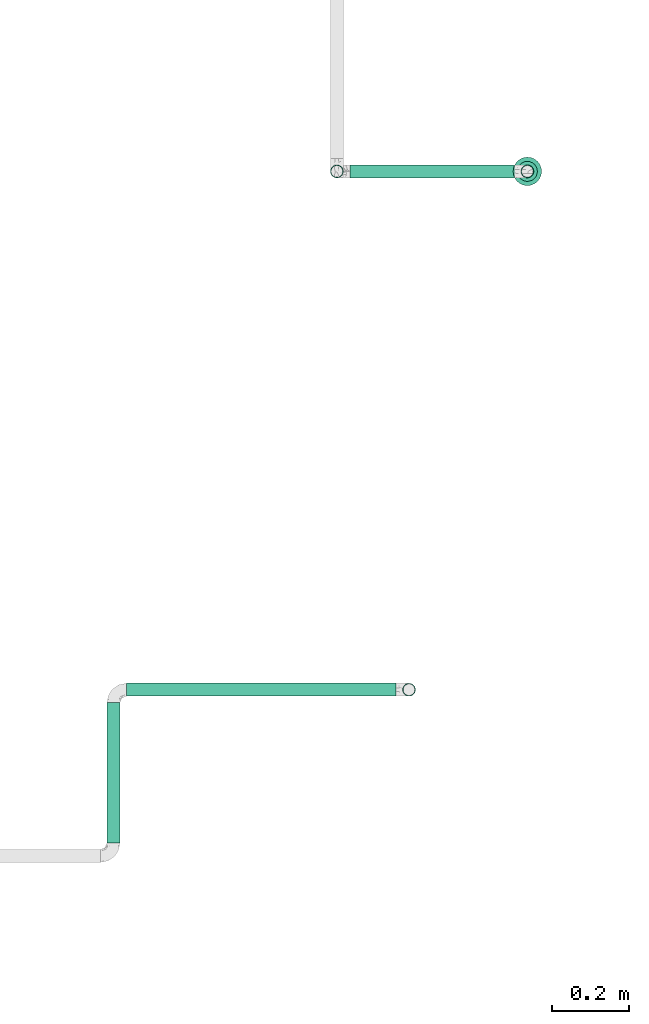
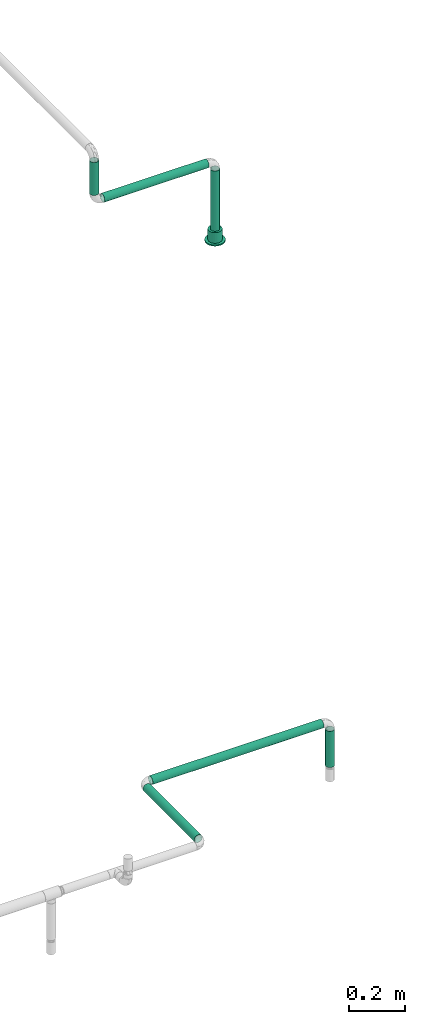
# One storey, part 29 of 95: 6 flow segments, 1 flow terminal.
"""IFC2X3 building model written with IfcOpenShell, lengths in millimetres."""

from ifc_helpers import new_model, entity, si_unit, converted_unit, derived_unit, direction, frame, origin_with_axes, origin_2d_with_axis, place, context, subcontext, project, spatial, hollow_circle, extrude, open_shell, surface_model, source, transform, mapped, type_object, element, save


model = new_model("IFC2X3")

# Units and contexts
model_context = context("Model", 3, precision=0.01, world=frame((0.0, 4.29681676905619e-09, 0.0)), true_north=direction((4.01073788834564e-13, 1.0)))
plan_context = context("Plan", 3, precision=0.01, world=frame((0.0, 4.29681676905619e-09, 0.0)), true_north=direction((4.01073788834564e-13, 1.0)))
body_context = subcontext(model_context, "Body", "Model", "MODEL_VIEW")
ifc_project = project(units=[converted_unit("PLANEANGLEUNIT", "DEGREE", entity("IfcPositiveLengthMeasure", 0.0174532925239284), si_unit("PLANEANGLEUNIT", "RADIAN"), dimensions=[0, 0, 0, 0, 0, 0, 0]), si_unit("AREAUNIT", "SQUARE_METRE"), si_unit("LENGTHUNIT", "METRE", prefix="MILLI"), si_unit("MASSUNIT", "GRAM", prefix="KILO"), si_unit("POWERUNIT", "WATT"), si_unit("PRESSUREUNIT", "PASCAL"), si_unit("FORCEUNIT", "NEWTON", prefix="KILO"), si_unit("ELECTRICVOLTAGEUNIT", "VOLT"), si_unit("ELECTRICCURRENTUNIT", "AMPERE"), si_unit("THERMODYNAMICTEMPERATUREUNIT", "DEGREE_CELSIUS"), si_unit("TIMEUNIT", "SECOND"), si_unit("VOLUMEUNIT", "CUBIC_METRE"), derived_unit("LINEARVELOCITYUNIT", [(si_unit("LENGTHUNIT", "METRE"), 1), (si_unit("TIMEUNIT", "SECOND"), -1)]), derived_unit("VOLUMETRICFLOWRATEUNIT", [(si_unit("VOLUMEUNIT", "CUBIC_METRE"), 1), (si_unit("TIMEUNIT", "SECOND"), -1)]), derived_unit("THERMALTRANSMITTANCEUNIT", [(si_unit("POWERUNIT", "WATT"), 1), (si_unit("THERMODYNAMICTEMPERATUREUNIT", "KELVIN"), -1), (si_unit("AREAUNIT", "SQUARE_METRE"), -1)]), derived_unit("SOUNDPRESSUREUNIT", [(si_unit("PRESSUREUNIT", "PASCAL"), 1)])], contexts=[model_context, plan_context])

# Site, building, storey
site_placement = place(None, frame((0.0, -4.29681676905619e-09, 0.0), z_axis=(0.0, 0.0, 1.0), x_axis=(1.0, 0.0, 0.0)))
site = spatial("IfcSite", under=ifc_project, at=site_placement, CompositionType="ELEMENT")
building_placement = place(site_placement, frame((0.0, 4.29681676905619e-09, 0.0), z_axis=(0.0, 0.0, 1.0), x_axis=(1.0, 0.0, 0.0)))
building = spatial("IfcBuilding", under=site, at=building_placement, Name="mc-building", CompositionType="ELEMENT")
storey_placement = place(building_placement, frame((0.0, 0.0, 210900.0), z_axis=(0.0, 0.0, 1.0), x_axis=(1.0, 0.0, 0.0)))
storey = spatial("IfcBuildingStorey", under=building, at=storey_placement, Name="Nivå F", CompositionType="ELEMENT", Elevation=210900.0)

# Flow segments
pipe_segment_type = type_object("IfcPipeSegmentType", Name="Stålrør normaltykke", PredefinedType="RIGIDSEGMENT")
shared_shape_1 = source(origin_with_axes(), body_context, "Body", "SweptSolid", [
    extrude(hollow_circle(Radius=16.9, WallThickness=2.0, at=origin_2d_with_axis()), frame((0.0, 0.0, 0.0), z_axis=(1.0, 0.0, 0.0), x_axis=(0.0, 1.0, 0.0)), (0.0, 0.0, 1.0), 427.2),
])
flow_segment_1_placement = place(storey_placement, frame((522836.56487, 458598.02191, 4100.0), z_axis=(0.0, 0.0, 1.0), x_axis=(1.0, 0.0, 0.0)))
element("IfcFlowSegment", 1, at=flow_segment_1_placement, inside=storey, type_object=pipe_segment_type, Name="Stålrør normaltykke", context=body_context, shape_type="MappedRepresentation", body=[
    mapped(shared_shape_1, transform((0.0, 0.0, 0.0), scale=1.0)),
])
shared_shape_2 = source(origin_with_axes(), body_context, "Body", "SweptSolid", [
    extrude(hollow_circle(Radius=16.9, WallThickness=2.0, at=origin_2d_with_axis()), frame((0.0, 0.0, 0.0), z_axis=(1.0, 0.0, 0.0), x_axis=(0.0, 1.0, 0.0)), (0.0, 0.0, 1.0), 296.9),
])
flow_segment_2_placement = place(storey_placement, frame((523297.57166, 458598.02191, 4066.20000000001), z_axis=(0.0, -1.0, 0.0), x_axis=(0.0, 0.0, -1.0)))
element("IfcFlowSegment", 2, at=flow_segment_2_placement, inside=storey, type_object=pipe_segment_type, Name="Stålrør normaltykke", context=body_context, shape_type="MappedRepresentation", body=[
    mapped(shared_shape_2, transform((0.0, 0.0, 0.0), scale=1.0)),
])
shared_shape_3 = source(origin_with_axes(), body_context, "Body", "SweptSolid", [
    extrude(hollow_circle(Radius=16.9, WallThickness=2.0, at=origin_2d_with_axis()), frame((0.0, 0.0, 0.0), z_axis=(1.0, 0.0, 0.0), x_axis=(0.0, 1.0, 0.0)), (0.0, 0.0, 1.0), 142.4),
])
flow_segment_3_placement = place(storey_placement, frame((522802.76487, 458598.02191, 4276.20000000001), z_axis=(1.0, 0.0, 0.0), x_axis=(0.0, 0.0, -1.0)))
element("IfcFlowSegment", 3, at=flow_segment_3_placement, inside=storey, type_object=pipe_segment_type, Name="Stålrør normaltykke", context=body_context, shape_type="MappedRepresentation", body=[
    mapped(shared_shape_3, transform((0.0, 0.0, 0.0), scale=1.0)),
])
shared_shape_4 = source(origin_with_axes(), body_context, "Body", "SweptSolid", [
    extrude(hollow_circle(Radius=16.9, WallThickness=2.0, at=origin_2d_with_axis()), frame((0.0, 0.0, 0.0), z_axis=(1.0, 0.0, 0.0), x_axis=(0.0, 1.0, 0.0)), (0.0, 0.0, 1.0), 364.2),
])
flow_segment_4_placement = place(storey_placement, frame((522222.4, 456853.85824, 2600.0), z_axis=(0.0, 0.0, 1.0), x_axis=(0.0, 1.0, 0.0)))
element("IfcFlowSegment", 4, at=flow_segment_4_placement, inside=storey, type_object=pipe_segment_type, Name="Stålrør normaltykke", context=body_context, shape_type="MappedRepresentation", body=[
    mapped(shared_shape_4, transform((0.0, 0.0, 0.0), scale=1.0)),
])
shared_shape_5 = source(origin_with_axes(), body_context, "Body", "SweptSolid", [
    extrude(hollow_circle(Radius=16.9, WallThickness=2.0, at=origin_2d_with_axis()), frame((0.0, 0.0, 0.0), z_axis=(1.0, 0.0, 0.0), x_axis=(0.0, 1.0, 0.0)), (0.0, 0.0, 1.0), 156.8),
])
flow_segment_5_placement = place(storey_placement, frame((522990.24238, 457251.63483, 2566.20000000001), z_axis=(0.0, -1.0, 0.0), x_axis=(0.0, 0.0, -1.0)))
element("IfcFlowSegment", 5, at=flow_segment_5_placement, inside=storey, type_object=pipe_segment_type, Name="Stålrør normaltykke", context=body_context, shape_type="MappedRepresentation", body=[
    mapped(shared_shape_5, transform((0.0, 0.0, 0.0), scale=1.0)),
])
shared_shape_6 = source(origin_with_axes(), body_context, "Body", "SweptSolid", [
    extrude(hollow_circle(Radius=16.9, WallThickness=2.0, at=origin_2d_with_axis()), frame((0.0, 0.0, 0.0), z_axis=(1.0, 0.0, 0.0), x_axis=(0.0, 1.0, 0.0)), (0.0, 0.0, 1.0), 700.2),
])
flow_segment_6_placement = place(storey_placement, frame((522956.44238, 457251.63483, 2600.0), z_axis=(0.0, 0.0, 1.0), x_axis=(-1.0, 0.0, 0.0)))
element("IfcFlowSegment", 6, at=flow_segment_6_placement, inside=storey, type_object=pipe_segment_type, Name="Stålrør normaltykke", context=body_context, shape_type="MappedRepresentation", body=[
    mapped(shared_shape_6, transform((0.0, 0.0, 0.0), scale=1.0)),
])

# Flow terminal
fire_suppression_terminal_type = type_object("IfcFireSuppressionTerminalType", Name="68DGR-STD-SKJULT I HIMLING", PredefinedType="NOTDEFINED")
shared_shape_7 = source(origin_with_axes(), body_context, "Body", "SurfaceModel", [
    surface_model("IfcShellBasedSurfaceModel", [(-26.0, 0.0, -46.0), (-25.11407, -6.72929, -46.0), (-25.11407, -6.72929, 0.0), (6.72929, -25.11407, 0.0), (6.72929, -25.11407, -46.0), (13.0, -22.51666, -46.0), (22.51666, -13.0, -46.0), (22.51666, -13.0, 0.0), (18.38478, -18.38478, 0.0), (25.11407, -6.72929, 0.0), (25.11407, -6.72929, -46.0), (26.0, 0.0, -46.0), (26.0, 0.0, 0.0), (25.11407, 6.72929, -46.0), (22.51666, 13.0, 0.0), (25.11407, 6.72929, 0.0), (13.0, 22.51666, -46.0), (6.72929, 25.11407, -46.0), (6.72929, 25.11407, 0.0), (18.38478, 18.38478, 0.0), (22.51666, 13.0, -46.0), (-25.11407, 6.72929, 0.0), (-25.11407, 6.72929, -46.0), (-26.16295, -26.16295, 5.0), (35.73926, -9.57631, 5.0), (37.0, 0.0, 5.0), (13.0, 22.51666, 0.0), (-26.0, 0.0, 0.0), (-13.0, 22.51666, 0.0), (-6.72929, 25.11407, 0.0), (0.0, 26.0, 0.0), (-22.51666, 13.0, 0.0), (-18.38478, 18.38478, 0.0), (13.0, -22.51666, 0.0), (0.0, -26.0, 0.0), (-22.51666, -13.0, 0.0), (-18.38478, -18.38478, 0.0), (-13.0, -22.51666, 0.0), (-6.72929, -25.11407, 0.0), (0.0, -26.0, -46.0), (18.38478, -18.38478, -46.0), (-18.38478, -18.38478, -46.0), (-13.0, -22.51666, -46.0), (-6.72929, -25.11407, -46.0), (-22.51666, -13.0, -46.0), (18.38478, 18.38478, -46.0), (-22.51666, 13.0, -46.0), (-18.38478, 18.38478, -46.0), (-13.0, 22.51666, -46.0), (-6.72929, 25.11407, -46.0), (0.0, 26.0, -46.0), (18.5, 32.04294, 5.0), (9.57631, 35.73926, 5.0), (35.73926, 9.57631, 5.0), (26.16295, 26.16295, 5.0), (32.04294, 18.5, 5.0), (-35.73926, -9.57631, 5.0), (-18.5, 32.04294, 5.0), (-9.57631, 35.73926, 5.0), (0.0, 37.0, 5.0), (-32.04294, 18.5, 5.0), (-35.73926, 9.57631, 5.0), (-26.16295, 26.16295, 5.0), (-37.0, 0.0, 5.0), (32.04294, -18.5, 5.0), (0.0, -37.0, 5.0), (26.16295, -26.16295, 5.0), (18.5, -32.04294, 5.0), (9.57631, -35.73926, 5.0), (-9.57631, -35.73926, 5.0), (-32.04294, -18.5, 5.0), (-18.5, -32.04294, 5.0), (18.5, -32.04294, 0.0), (9.57631, -35.73926, 0.0), (0.0, -37.0, 0.0), (32.04294, -18.5, 0.0), (-26.16295, -26.16295, 0.0), (26.16295, -26.16295, 0.0), (-35.73926, 9.57631, 0.0), (-18.5, -32.04294, 0.0), (-9.57631, -35.73926, 0.0), (-32.04294, -18.5, 0.0), (-35.73926, -9.57631, 0.0), (-37.0, 0.0, 0.0), (35.73926, -9.57631, 0.0), (35.73926, 9.57631, 0.0), (32.04294, 18.5, 0.0), (18.5, 32.04294, 0.0), (9.57631, 35.73926, 0.0), (26.16295, 26.16295, 0.0), (-32.04294, 18.5, 0.0), (-26.16295, 26.16295, 0.0), (-9.57631, 35.73926, 0.0), (0.0, 37.0, 0.0), (-18.5, 32.04294, 0.0), (37.0, 0.0, 0.0)], [open_shell([[[0, 1, 2]], [[3, 4, 5]], [[6, 7, 8]], [[9, 7, 10]], [[11, 12, 9]], [[13, 14, 15]], [[15, 12, 11]], [[16, 17, 18]], [[19, 14, 20]], [[21, 22, 0]], [[23, 24, 25]], [[19, 26, 18]], [[19, 18, 21]], [[27, 15, 19]], [[14, 19, 15]], [[19, 21, 27]], [[28, 21, 29]], [[18, 30, 29]], [[31, 21, 32]], [[28, 32, 21]], [[29, 21, 18]], [[12, 15, 27]], [[8, 7, 9]], [[33, 8, 9]], [[34, 3, 33]], [[9, 34, 33]], [[27, 34, 9]], [[2, 35, 27]], [[36, 27, 35]], [[37, 38, 36]], [[34, 27, 36]], [[36, 38, 34]], [[12, 27, 9]], [[5, 4, 39]], [[5, 39, 22]], [[10, 6, 40]], [[5, 10, 40]], [[39, 41, 22]], [[42, 41, 43]], [[41, 39, 43]], [[1, 0, 44]], [[44, 0, 22]], [[22, 41, 44]], [[10, 5, 22]], [[45, 13, 10]], [[20, 13, 45]], [[17, 16, 45]], [[10, 22, 45]], [[45, 22, 17]], [[46, 47, 22]], [[48, 22, 47]], [[48, 49, 22]], [[49, 17, 22]], [[49, 50, 17]], [[11, 10, 13]], [[46, 22, 21]], [[46, 31, 47]], [[49, 48, 28]], [[32, 48, 47]], [[50, 49, 29]], [[21, 0, 27]], [[21, 31, 46]], [[31, 32, 47]], [[48, 32, 28]], [[28, 29, 49]], [[29, 30, 50]], [[16, 26, 45]], [[13, 20, 14]], [[19, 20, 45]], [[11, 13, 15]], [[30, 18, 17]], [[18, 26, 16]], [[26, 19, 45]], [[50, 30, 17]], [[11, 9, 10]], [[10, 7, 6]], [[3, 39, 4]], [[6, 8, 40]], [[3, 5, 33]], [[8, 33, 5]], [[5, 40, 8]], [[3, 34, 39]], [[42, 43, 38]], [[42, 37, 41]], [[1, 44, 35]], [[36, 44, 41]], [[34, 38, 43]], [[38, 37, 42]], [[37, 36, 41]], [[36, 35, 44]], [[1, 35, 2]], [[2, 27, 0]], [[39, 34, 43]], [[51, 52, 53]], [[54, 51, 55]], [[56, 52, 57]], [[55, 51, 53]], [[52, 56, 53]], [[58, 57, 59]], [[57, 52, 59]], [[60, 61, 62]], [[57, 62, 63]], [[62, 61, 63]], [[53, 23, 25]], [[64, 24, 65]], [[66, 64, 67]], [[65, 68, 67]], [[64, 65, 67]], [[69, 65, 24]], [[70, 23, 56]], [[56, 57, 63]], [[71, 69, 23]], [[23, 53, 56]], [[24, 23, 69]], [[72, 73, 74]], [[75, 72, 74]], [[76, 75, 74]], [[77, 72, 75]], [[75, 76, 78]], [[79, 76, 80]], [[76, 74, 80]], [[81, 82, 76]], [[82, 78, 76]], [[83, 78, 82]], [[75, 78, 84]], [[85, 84, 78]], [[86, 85, 87]], [[85, 88, 87]], [[89, 86, 87]], [[88, 85, 78]], [[90, 91, 78]], [[91, 88, 78]], [[92, 93, 94]], [[88, 91, 94]], [[88, 94, 93]], [[95, 84, 85]], [[83, 61, 78]], [[78, 60, 90]], [[94, 91, 57]], [[62, 91, 90]], [[92, 94, 58]], [[61, 60, 78]], [[83, 63, 61]], [[94, 57, 58]], [[57, 91, 62]], [[90, 60, 62]], [[92, 58, 59]], [[59, 93, 92]], [[93, 52, 88]], [[88, 51, 87]], [[86, 89, 55]], [[54, 89, 87]], [[85, 86, 53]], [[51, 54, 87]], [[88, 52, 51]], [[85, 53, 25]], [[53, 86, 55]], [[89, 54, 55]], [[85, 25, 95]], [[59, 52, 93]], [[95, 24, 84]], [[84, 64, 75]], [[72, 77, 67]], [[66, 77, 75]], [[73, 72, 68]], [[24, 64, 84]], [[95, 25, 24]], [[72, 67, 68]], [[67, 77, 66]], [[75, 64, 66]], [[73, 68, 65]], [[65, 74, 73]], [[74, 69, 80]], [[80, 71, 79]], [[81, 76, 70]], [[23, 76, 79]], [[82, 81, 56]], [[71, 23, 79]], [[80, 69, 71]], [[82, 56, 63]], [[56, 81, 70]], [[76, 23, 70]], [[82, 63, 83]], [[65, 69, 74]]])]),
])
flow_terminal_placement = place(storey_placement, frame((523297.57166, 458598.02191, 3759.89999999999), z_axis=(0.0, 0.0, -1.0), x_axis=(1.0, 0.0, 0.0)))
element("IfcFlowTerminal", 7, at=flow_terminal_placement, inside=storey, type_object=fire_suppression_terminal_type, Name="68DGR-STD-SKJULT I HIMLING", context=body_context, shape_type="MappedRepresentation", body=[
    mapped(shared_shape_7, transform((0.0, 0.0, 0.0), scale=1.0)),
])

save(model, "model.ifc")
